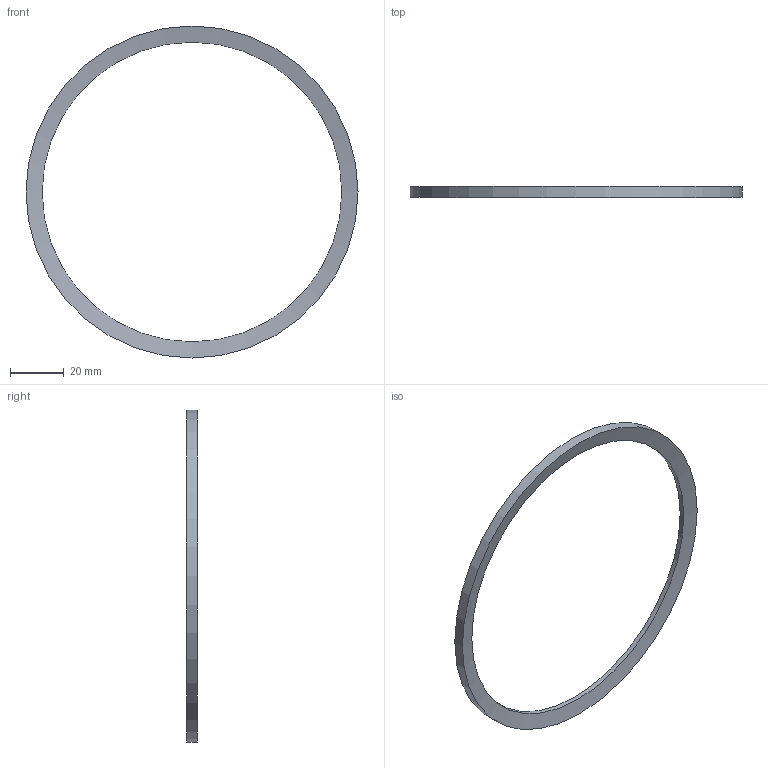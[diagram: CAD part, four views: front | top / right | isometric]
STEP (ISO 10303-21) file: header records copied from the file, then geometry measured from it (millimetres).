
FILE_DESCRIPTION(/* description */ (''),/* implementation_level */ '2;1');
FILE_NAME(/* name */ 'Z:\Geberit\Export\NewStep\367782.stp',/* time_stamp */ '2014-04-02T07:58:23+02:00',/* author */ ('nelson'),/* organization */ (''),/* preprocessor_version */ 'ST-DEVELOPER v15.2',/* originating_system */ 'Autodesk Inventor 2014',/* authorisation */ '');
FILE_SCHEMA (('AUTOMOTIVE_DESIGN { 1 0 10303 214 3 1 1 }'));
Length unit declared in the file: millimetre
Products named in the file (1): 367782
Bounding box: 123.5 x 4 x 123.5 mm (x, y, z)
Volume: 6556 mm3; surface area: 6709.9 mm2
Topology: 1 solids, 1 shells, 4 faces, 8 edges, 4 vertices
Faces by surface type: cylinder 2, cone 2
Full cylindrical faces by diameter (mm): 111.5 x1, 123.5 x1
Entity records: 113 total; most frequent: DIRECTION 18, CARTESIAN_POINT 13, AXIS2_PLACEMENT_3D 9, EDGE_LOOP 8, ORIENTED_EDGE 8, STYLED_ITEM 5, FACE_BOUND 4, FACE_OUTER_BOUND 4
